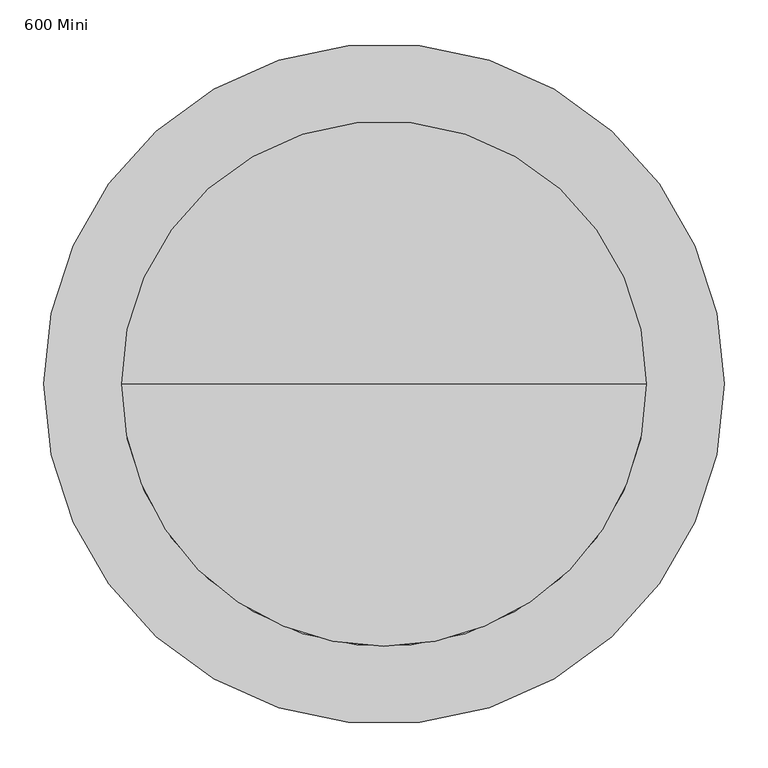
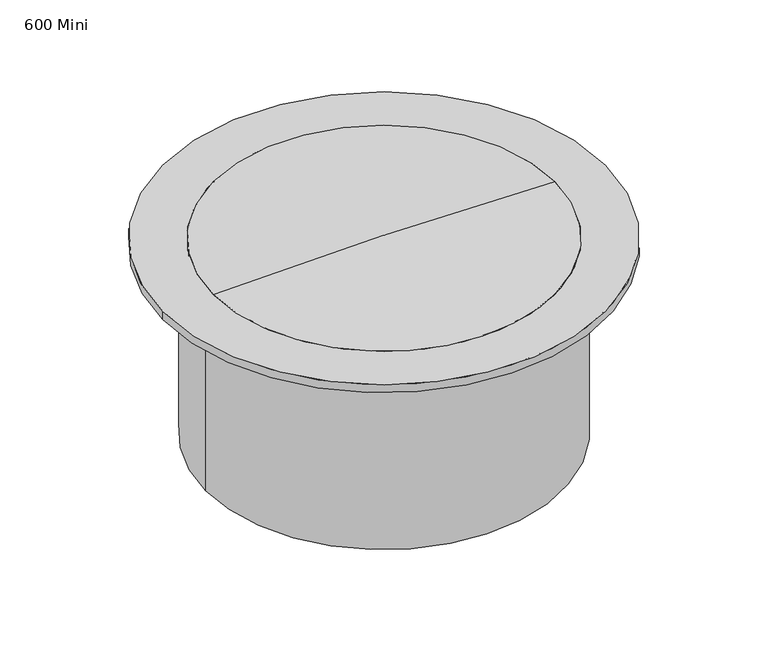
"""IFC4 building model written with IfcOpenShell, lengths in millimetres: proxy geometry, GRAF Tele Dome 600 Mini : 600 Mini."""

from ifc_helpers import new_model, si_unit, point, frame, origin, origin_2d, place, context, project, spatial, polyline, circle_curve, ellipse_curve, trimmed, segment, composite_curve, outline, extrude, source, transform, mapped, element, save
from ifc_brep_helpers import plane_surface, cylinder_surface, revolved_surface, advanced_brep


def proxy_600_mini_f4d43cd5(model_context):
    return source(origin(), model_context, "Body", "SolidModel", [
        advanced_brep(
        [(0.0, 0.0, -14.9500624), (-300.0, 0.0, -14.9500624), (300.0, 0.0, -14.9500624), (300.0, 0.0, 0.0), (-300.0, 0.0, 0.0), (0.0, 0.0, 6.1740495)],
        [
            (0, 1),
            (1, 2, circle_curve(frame((0.0, 0.0, -14.9500624), z_axis=(0.0, 0.0, -1.0), x_axis=(-1.0, 0.0, 0.0)), 300.0)),
            (2, 0),
            (2, 1, circle_curve(frame((0.0, 0.0, -14.9500624), z_axis=(0.0, 0.0, -1.0), x_axis=(-1.0, 0.0, 0.0)), 300.0)),
            (3, 4, circle_curve(frame((0.0, 0.0, 0.0), z_axis=(0.0, 0.0, 1.0), x_axis=(-1.0, 0.0, 0.0)), 300.0)),
            (4, 5, circle_curve(frame((0.0, 0.0, -7285.4842816), z_axis=(0.0, 1.0, 0.0), x_axis=(1.0, 0.0, 0.0)), 7291.6583311)),
            (5, 3, circle_curve(frame((0.0, 0.0, -7285.4842816), z_axis=(0.0, 1.0, 0.0), x_axis=(-1.0, 0.0, 0.0)), 7291.6583311)),
            (4, 3, circle_curve(frame((0.0, 0.0, 0.0), z_axis=(0.0, 0.0, 1.0), x_axis=(-1.0, 0.0, 0.0)), 300.0)),
            (1, 4),
            (3, 2),
        ],
        [
            plane_surface(frame((0.0, 0.0, -14.9500624), z_axis=(0.0, 0.0, -1.0), x_axis=(-1.0, 0.0, 0.0))),
            revolved_surface(trimmed(ellipse_curve(frame((0.0, 0.0, -7285.4842816), z_axis=(0.0, -1.0, 0.0), x_axis=(1.0, 0.0, 0.0)), 7291.6583311, 7291.6583311), [point((0.0, 0.0, 6.1740495))], [point((-300.0, 0.0, 0.0))], True, "CARTESIAN"), (0.0, 0.0, -119.9500624), (0.0, 0.0, -1.0)),
            cylinder_surface(frame((0.0, 0.0, -119.9500624), z_axis=(0.0, 0.0, -1.0), x_axis=(-1.0, 0.0, 0.0)), 300.0),
        ],
        [
            (0, [[1, 2, 3]]),
            (0, [[-3, 4, -1]]),
            (1, [[5, 6, 7]]),
            (1, [[8, -7, -6]]),
            (2, [[-2, 9, -5, 10]]),
            (2, [[-4, -10, -8, -9]]),
        ],
    ),
        extrude(outline(composite_curve([segment(trimmed(circle_curve(origin_2d(), 313.0), [point((-313.0, 0.0))], [point((313.0, 0.0))], False, "CARTESIAN"), True, "CONTINUOUS"), segment(trimmed(circle_curve(origin_2d(), 313.0), [point((313.0, 0.0))], [point((-313.0, 0.0))], False, "CARTESIAN"), True, "CONTINUOUS")], self_intersect=False), holes=[composite_curve([segment(trimmed(circle_curve(origin_2d(), 300.0), [point((-300.0, 0.0))], [point((300.0, 0.0))], True, "CARTESIAN"), True, "CONTINUOUS"), segment(trimmed(circle_curve(origin_2d(), 300.0), [point((300.0, 0.0))], [point((-300.0, 0.0))], True, "CARTESIAN"), True, "CONTINUOUS")], self_intersect=False)]), frame((0.0, 0.0, -360.0), z_axis=(0.0, 0.0, 1.0), x_axis=(1.0, 0.0, 0.0)), (0.0, 0.0, 1.0), 345.0499376),
        extrude(outline(composite_curve([segment(trimmed(circle_curve(origin_2d(), 388.9599098), [point((-388.9599098, 0.0))], [point((388.9599098, 0.0))], False, "CARTESIAN"), True, "CONTINUOUS"), segment(trimmed(circle_curve(origin_2d(), 388.9599098), [point((388.9599098, 0.0))], [point((-388.9599098, 0.0))], False, "CARTESIAN"), True, "CONTINUOUS")], self_intersect=False), holes=[composite_curve([segment(trimmed(circle_curve(origin_2d(), 300.0), [point((-300.0, 0.0))], [point((300.0, 0.0))], True, "CARTESIAN"), True, "CONTINUOUS"), segment(trimmed(circle_curve(origin_2d(), 300.0), [point((300.0, 0.0))], [point((-300.0, 0.0))], True, "CARTESIAN"), True, "CONTINUOUS")], self_intersect=False)]), frame((0.0, 0.0, -14.9500624), z_axis=(0.0, 0.0, 1.0), x_axis=(1.0, 0.0, 0.0)), (0.0, 0.0, 1.0), 14.9500624),
        extrude(outline(polyline([(-42.0990731, 0.0), (0.0, 0.0), (-42.0990731, -57.1373839), (-42.0990731, 0.0)])), frame((298.912638, -92.9797552, -57.0491355), z_axis=(0.2817325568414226, 0.9594929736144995, 0.0), x_axis=(0.0, 0.0, -1.0)), (0.0, 0.0, 1.0), 10.0),
        extrude(outline(polyline([(-42.0990731, 0.0), (0.0, 0.0), (-42.0990731, -57.137384), (-42.0990731, 0.0)])), frame((260.6091517, -173.4268435, -57.0491355), z_axis=(0.5406408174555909, 0.8412535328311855, 0.0), x_axis=(0.0, 0.0, -1.0)), (0.0, 0.0, 1.0), 10.0),
        extrude(outline(polyline([(-42.0990731, 0.0), (0.0, 0.0), (-42.0990731, -57.137384), (-42.0990731, 0.0)])), frame((201.1926619, -239.8239204, -57.0491355), z_axis=(0.7557495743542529, 0.6548607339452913, 0.0), x_axis=(0.0, 0.0, -1.0)), (0.0, 0.0, 1.0), 10.0),
        extrude(outline(polyline([(-42.0990731, 0.0), (0.0, 0.0), (-42.0990731, -57.137384), (-42.0990731, 0.0)])), frame((125.4767391, -286.7918896, -57.0491355), z_axis=(0.9096319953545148, 0.4154150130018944, 0.0), x_axis=(0.0, 0.0, -1.0)), (0.0, 0.0, 1.0), 10.0),
        extrude(outline(polyline([(-42.0990731, 0.0), (0.0, 0.0), (-42.0990731, -57.137384), (-42.0990731, 0.0)])), frame((39.5954372, -310.5256855, -57.0491355), z_axis=(0.9898214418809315, 0.1423148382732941, 0.0), x_axis=(0.0, 0.0, -1.0)), (0.0, 0.0, 1.0), 10.0),
        extrude(outline(polyline([(42.0990731, 0.0), (42.0990731, -57.137384), (0.0, 0.0), (42.0990731, 0.0)])), frame((-39.5954372, -310.5256855, -57.0491355), z_axis=(-0.9898214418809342, 0.14231483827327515, 0.0), x_axis=(0.0, 0.0, 1.0)), (0.0, 0.0, 1.0), 10.0),
        extrude(outline(polyline([(42.0990731, 0.0), (42.0990731, -57.137384), (0.0, 0.0), (42.0990731, 0.0)])), frame((-125.4767391, -286.7918896, -57.0491355), z_axis=(-0.9096319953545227, 0.41541501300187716, 0.0), x_axis=(0.0, 0.0, 1.0)), (0.0, 0.0, 1.0), 10.0),
        extrude(outline(polyline([(42.0990731, 0.0), (42.0990731, -57.137384), (0.0, 0.0), (42.0990731, 0.0)])), frame((-201.1926619, -239.8239204, -57.0491355), z_axis=(-0.7557495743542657, 0.6548607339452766, 0.0), x_axis=(0.0, 0.0, 1.0)), (0.0, 0.0, 1.0), 10.0),
        extrude(outline(polyline([(42.0990731, 0.0), (42.0990731, -57.137384), (0.0, 0.0), (42.0990731, 0.0)])), frame((-260.6091517, -173.4268435, -57.0491355), z_axis=(-0.5406408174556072, 0.8412535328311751, 0.0), x_axis=(0.0, 0.0, 1.0)), (0.0, 0.0, 1.0), 10.0),
        extrude(outline(polyline([(42.0990731, 0.0), (42.0990731, -57.1373839), (0.0, 0.0), (42.0990731, 0.0)])), frame((-298.912638, -92.9797552, -57.0491355), z_axis=(-0.28173255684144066, 0.9594929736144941, 0.0), x_axis=(0.0, 0.0, 1.0)), (0.0, 0.0, 1.0), 10.0),
        extrude(outline(polyline([(0.0, 0.0), (0.0, -42.0990731), (-57.137384, 0.0), (0.0, 0.0)])), frame((301.7299635, 83.3848254, -14.9500624), z_axis=(-0.2817325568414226, 0.9594929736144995, 0.0), x_axis=(-0.9594929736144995, -0.2817325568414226, 0.0)), (0.0, 0.0, 1.0), 10.0),
        extrude(outline(polyline([(0.0, 0.0), (0.0, -42.0990731), (-57.137384, 0.0), (0.0, 0.0)])), frame((266.0155599, 165.0143082, -14.9500624), z_axis=(-0.5406408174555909, 0.8412535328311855, 0.0), x_axis=(-0.8412535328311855, -0.5406408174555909, 0.0)), (0.0, 0.0, 1.0), 10.0),
        extrude(outline(polyline([(0.0, 0.0), (0.0, -42.0990731), (-57.137384, 0.0), (0.0, 0.0)])), frame((208.7501576, 233.2753131, -14.9500624), z_axis=(-0.7557495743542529, 0.6548607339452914, 0.0), x_axis=(-0.6548607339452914, -0.7557495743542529, 0.0)), (0.0, 0.0, 1.0), 10.0),
        extrude(outline(polyline([(0.0, 0.0), (0.0, -42.0990731), (-57.137384, 0.0), (0.0, 0.0)])), frame((134.573059, 282.6377395, -14.9500624), z_axis=(-0.9096319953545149, 0.4154150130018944, 0.0), x_axis=(-0.4154150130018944, -0.9096319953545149, 0.0)), (0.0, 0.0, 1.0), 10.0),
        extrude(outline(polyline([(0.0, 0.0), (0.0, -42.0990731), (-57.137384, 0.0), (0.0, 0.0)])), frame((49.4936516, 309.1025371, -14.9500624), z_axis=(-0.9898214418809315, 0.1423148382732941, 0.0), x_axis=(-0.1423148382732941, -0.9898214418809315, 0.0)), (0.0, 0.0, 1.0), 10.0),
        extrude(outline(polyline([(0.0, 0.0), (57.137384, 0.0), (0.0, -42.0990731), (0.0, 0.0)])), frame((-49.4936516, 309.1025371, -14.9500624), z_axis=(0.9898214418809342, 0.14231483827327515, 0.0), x_axis=(-0.14231483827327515, 0.9898214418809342, 0.0)), (0.0, 0.0, 1.0), 10.0),
        extrude(outline(polyline([(0.0, 0.0), (57.137384, 0.0), (0.0, -42.0990731), (0.0, 0.0)])), frame((-134.573059, 282.6377395, -14.9500624), z_axis=(0.9096319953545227, 0.4154150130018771, 0.0), x_axis=(-0.4154150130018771, 0.9096319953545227, 0.0)), (0.0, 0.0, 1.0), 10.0),
        extrude(outline(polyline([(0.0, 0.0), (57.137384, 0.0), (0.0, -42.0990731), (0.0, 0.0)])), frame((-208.7501576, 233.2753131, -14.9500624), z_axis=(0.7557495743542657, 0.6548607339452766, 0.0), x_axis=(-0.6548607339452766, 0.7557495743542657, 0.0)), (0.0, 0.0, 1.0), 10.0),
        extrude(outline(polyline([(0.0, 0.0), (57.137384, 0.0), (0.0, -42.0990731), (0.0, 0.0)])), frame((-266.0155599, 165.0143082, -14.9500624), z_axis=(0.5406408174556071, 0.841253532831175, 0.0), x_axis=(-0.841253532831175, 0.5406408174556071, 0.0)), (0.0, 0.0, 1.0), 10.0),
        extrude(outline(polyline([(0.0, 0.0), (57.137384, 0.0), (0.0, -42.0990731), (0.0, 0.0)])), frame((-301.7299635, 83.3848254, -14.9500624), z_axis=(0.2817325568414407, 0.9594929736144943, 0.0), x_axis=(-0.9594929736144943, 0.2817325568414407, 0.0)), (0.0, 0.0, 1.0), 10.0),
        extrude(outline(polyline([(-14.9500624, 313.0), (-57.0491355, 313.0), (-14.9500624, 370.137384), (-14.9500624, 313.0)])), frame((0.0, -5.0, 0.0), z_axis=(0.0, 1.0, 0.0), x_axis=(0.0, 0.0, 1.0)), (0.0, 0.0, 1.0), 10.0),
        extrude(outline(polyline([(-14.9500624, -313.0), (-14.9500624, -370.137384), (-57.0491355, -313.0), (-14.9500624, -313.0)])), frame((0.0, -5.0, 0.0), z_axis=(0.0, 1.0, 0.0), x_axis=(0.0, 0.0, 1.0)), (0.0, 0.0, 1.0), 10.0),
    ])


if __name__ == "__main__":
    model = new_model("IFC4")
    model_context = context("Model", 3, world=origin())
    ifc_project = project(units=[si_unit("LENGTHUNIT", "METRE", prefix="MILLI")], contexts=[model_context])
    site = spatial("IfcSite", under=ifc_project)
    building = spatial("IfcBuilding", under=site)
    placement = place(None, origin())
    proxy_600_mini_shape = proxy_600_mini_f4d43cd5(model_context)
    element("IfcBuildingElementProxy", 1, Name="GRAF Tele Dome 600 Mini : 600 Mini", ObjectType="GRAF Tele Dome 600 Mini : 600 Mini", at=placement, inside=building, context=model_context, shape_type="MappedRepresentation", body=[
        mapped(proxy_600_mini_shape, transform((0.0, 0.0, 0.0), x_axis=(1.0, 0.0, 0.0), y_axis=(0.0, 1.0, 0.0), z_axis=(0.0, 0.0, 1.0))),
    ])
    save(model, "model.ifc")
